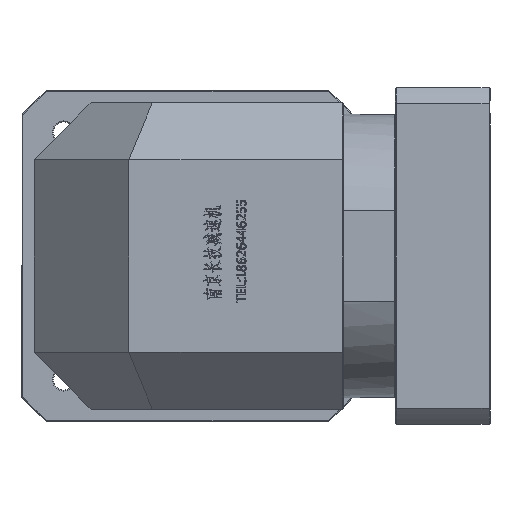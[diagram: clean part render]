
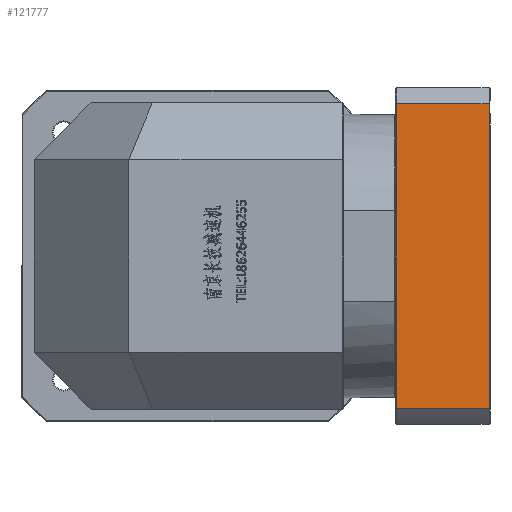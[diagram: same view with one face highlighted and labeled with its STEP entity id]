
A CAD part, left-side view. The second image highlights one B-rep face of the part: STEP entity #121777.
In plain terms, the highlighted planar face has unit normal (-1, 0, 0).
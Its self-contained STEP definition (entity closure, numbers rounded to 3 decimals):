
#2641 = PLANE ( 'NONE',  #75273 ) ;
#2983 = DIRECTION ( 'NONE',  ( 0., 0., -1. ) ) ;
#5733 = EDGE_CURVE ( 'NONE', #75949, #122600, #140550, .T. ) ;
#10042 = LINE ( 'NONE', #51880, #68823 ) ;
#13946 = VECTOR ( 'NONE', #2983, 1000. ) ;
#14461 = DIRECTION ( 'NONE',  ( 0., 1., 0. ) ) ;
#15476 = DIRECTION ( 'NONE',  ( 1., 0., 0. ) ) ;
#17107 = EDGE_CURVE ( 'NONE', #122600, #48275, #47747, .T. ) ;
#21610 = CARTESIAN_POINT ( 'NONE',  ( -127.111, -241.196, 163.583 ) ) ;
#26802 = EDGE_CURVE ( 'NONE', #41508, #75949, #10042, .T. ) ;
#32335 = LINE ( 'NONE', #39448, #13946 ) ;
#36678 = VECTOR ( 'NONE', #103776, 1000. ) ;
#39448 = CARTESIAN_POINT ( 'NONE',  ( -127.111, -192.196, 163.583 ) ) ;
#41508 = VERTEX_POINT ( 'NONE', #125221 ) ;
#47747 = LINE ( 'NONE', #136093, #36678 ) ;
#48275 = VERTEX_POINT ( 'NONE', #80836 ) ;
#51633 = EDGE_CURVE ( 'NONE', #41508, #48275, #32335, .T. ) ;
#51880 = CARTESIAN_POINT ( 'NONE',  ( -127.111, -241.696, 333.075 ) ) ;
#60158 = ORIENTED_EDGE ( 'NONE', *, *, #17107, .F. ) ;
#68435 = FACE_OUTER_BOUND ( 'NONE', #131488, .T. ) ;
#68823 = VECTOR ( 'NONE', #87287, 1000. ) ;
#75273 = AXIS2_PLACEMENT_3D ( 'NONE', #84811, #15476, #14461 ) ;
#75949 = VERTEX_POINT ( 'NONE', #116955 ) ;
#79065 = DIRECTION ( 'NONE',  ( 0., 0., -1. ) ) ;
#80836 = CARTESIAN_POINT ( 'NONE',  ( -127.111, -192.196, 172.091 ) ) ;
#84811 = CARTESIAN_POINT ( 'NONE',  ( -127.111, -241.696, 163.583 ) ) ;
#87287 = DIRECTION ( 'NONE',  ( 0., -1., 0. ) ) ;
#103776 = DIRECTION ( 'NONE',  ( 0., 1., 0. ) ) ;
#106309 = ORIENTED_EDGE ( 'NONE', *, *, #5733, .F. ) ;
#109395 = VECTOR ( 'NONE', #79065, 1000. ) ;
#116955 = CARTESIAN_POINT ( 'NONE',  ( -127.111, -241.196, 333.075 ) ) ;
#121777 = ADVANCED_FACE ( 'NONE', ( #68435 ), #2641, .F. ) ;
#122600 = VERTEX_POINT ( 'NONE', #137360 ) ;
#125221 = CARTESIAN_POINT ( 'NONE',  ( -127.111, -192.196, 333.075 ) ) ;
#129155 = ORIENTED_EDGE ( 'NONE', *, *, #26802, .F. ) ;
#131488 = EDGE_LOOP ( 'NONE', ( #129155, #145015, #60158, #106309 ) ) ;
#136093 = CARTESIAN_POINT ( 'NONE',  ( -127.111, 151.11, 172.091 ) ) ;
#137360 = CARTESIAN_POINT ( 'NONE',  ( -127.111, -241.196, 172.091 ) ) ;
#140550 = LINE ( 'NONE', #21610, #109395 ) ;
#145015 = ORIENTED_EDGE ( 'NONE', *, *, #51633, .T. ) ;
